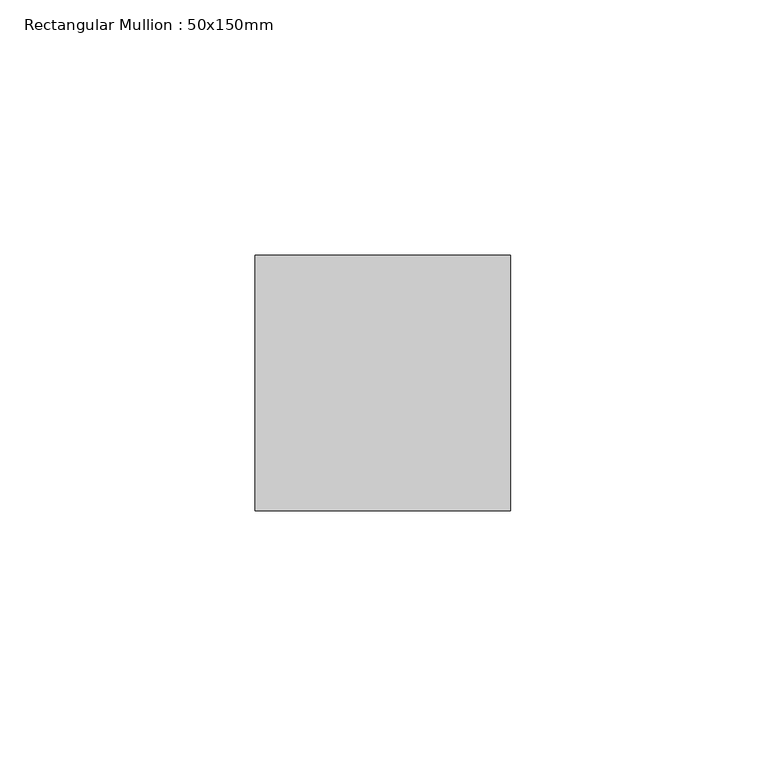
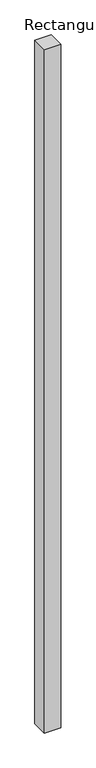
"""IFC4 building model written with IfcOpenShell, lengths in millimetres: member geometry, Rectangular Mullion : 50x150mm."""

from ifc_helpers import new_model, si_unit, frame, origin, place, context, project, spatial, polyline, outline, extrude, source, transform, mapped, element, save


def rectangular_mullion_50x150mm_2a97b9df(model_context):
    return source(origin(), model_context, "Body", "SweptSolid", [
        extrude(outline(polyline([(0.0, 25.0), (0.0, -25.0), (-50.0, -25.0), (-50.0, 25.0), (0.0, 25.0)])), frame((0.0, 0.0, -2201.0), z_axis=(0.0, 0.0, 1.0), x_axis=(1.0, 0.0, 0.0)), (0.0, 0.0, 1.0), 2201.0),
    ])


if __name__ == "__main__":
    model = new_model("IFC4")
    model_context = context("Model", 3, world=origin())
    ifc_project = project(units=[si_unit("LENGTHUNIT", "METRE", prefix="MILLI")], contexts=[model_context])
    site = spatial("IfcSite", under=ifc_project)
    building = spatial("IfcBuilding", under=site)
    placement = place(None, origin())
    rectangular_mullion_50x150mm_shape = rectangular_mullion_50x150mm_2a97b9df(model_context)
    element("IfcMember", 1, ObjectType="Rectangular Mullion : 50x150mm", at=placement, inside=building, context=model_context, shape_type="MappedRepresentation", body=[
        mapped(rectangular_mullion_50x150mm_shape, transform((0.0, 0.0, 0.0), x_axis=(1.0, 0.0, 0.0), y_axis=(0.0, 1.0, 0.0), z_axis=(0.0, 0.0, 1.0))),
    ])
    save(model, "model.ifc")
